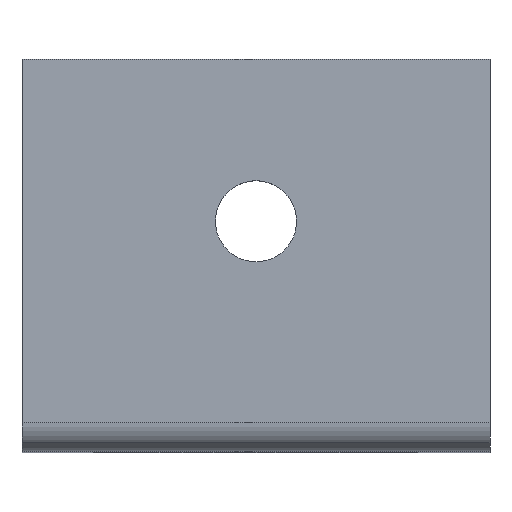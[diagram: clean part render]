
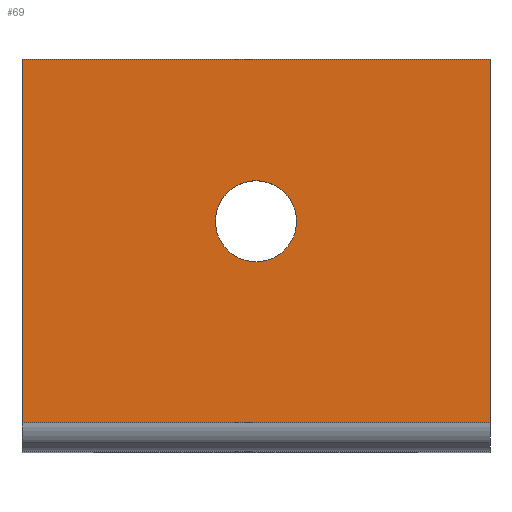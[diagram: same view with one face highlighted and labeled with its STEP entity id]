
A CAD part, top view. The second image highlights one B-rep face of the part: STEP entity #69.
In plain terms, the highlighted planar face has unit normal (0, 0, 1).
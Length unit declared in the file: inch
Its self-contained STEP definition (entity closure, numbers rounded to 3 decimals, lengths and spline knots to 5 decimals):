
#69=ADVANCED_FACE('',(#149,#150),#151,.T.);
#149=FACE_OUTER_BOUND('',#246,.T.);
#150=FACE_BOUND('',#247,.T.);
#151=PLANE('',#248);
#246=EDGE_LOOP('',(#436,#437,#438,#439));
#247=EDGE_LOOP('',(#440,#441,#442,#443));
#248=AXIS2_PLACEMENT_3D('',#444,#445,#446);
#436=ORIENTED_EDGE('',*,*,#625,.F.);
#437=ORIENTED_EDGE('',*,*,#626,.T.);
#438=ORIENTED_EDGE('',*,*,#627,.F.);
#439=ORIENTED_EDGE('',*,*,#601,.T.);
#440=ORIENTED_EDGE('',*,*,#628,.T.);
#441=ORIENTED_EDGE('',*,*,#629,.T.);
#442=ORIENTED_EDGE('',*,*,#630,.T.);
#443=ORIENTED_EDGE('',*,*,#631,.T.);
#444=CARTESIAN_POINT('',(0.,0.85633,2.68662));
#445=DIRECTION('',(0.0,0.0,1.0));
#446=DIRECTION('',(0.0,-1.0,0.0));
#601=EDGE_CURVE('',#717,#715,#718,.T.);
#625=EDGE_CURVE('',#756,#715,#757,.T.);
#626=EDGE_CURVE('',#756,#758,#759,.T.);
#627=EDGE_CURVE('',#717,#758,#760,.T.);
#628=EDGE_CURVE('',#761,#762,#763,.T.);
#629=EDGE_CURVE('',#762,#764,#765,.T.);
#630=EDGE_CURVE('',#764,#766,#767,.T.);
#631=EDGE_CURVE('',#766,#761,#768,.T.);
#715=VERTEX_POINT('',#873);
#717=VERTEX_POINT('',#875);
#718=LINE('',#876,#877);
#756=VERTEX_POINT('',#940);
#757=LINE('',#941,#942);
#758=VERTEX_POINT('',#943);
#759=LINE('',#944,#945);
#760=LINE('',#946,#947);
#761=VERTEX_POINT('',#948);
#762=VERTEX_POINT('',#949);
#763=B_SPLINE_CURVE_WITH_KNOTS('',3,(#950,#951,#952,#953),.UNSPECIFIED.,.F.,.F.,(4,4),(-1.0,-0.0),.UNSPECIFIED.);
#764=VERTEX_POINT('',#954);
#765=B_SPLINE_CURVE_WITH_KNOTS('',3,(#955,#956,#957,#958),.UNSPECIFIED.,.F.,.F.,(4,4),(-1.0,-0.0),.UNSPECIFIED.);
#766=VERTEX_POINT('',#959);
#767=B_SPLINE_CURVE_WITH_KNOTS('',3,(#960,#961,#962,#963),.UNSPECIFIED.,.F.,.F.,(4,4),(-1.0,-0.0),.UNSPECIFIED.);
#768=B_SPLINE_CURVE_WITH_KNOTS('',3,(#964,#965,#966,#967),.UNSPECIFIED.,.F.,.F.,(4,4),(-1.0,-0.0),.UNSPECIFIED.);
#873=CARTESIAN_POINT('',(0.,0.27569,2.68662));
#875=CARTESIAN_POINT('',(0.,1.53698,2.68662));
#876=CARTESIAN_POINT('',(0.,1.53698,2.68662));
#877=VECTOR('',#1094,1.0);
#940=CARTESIAN_POINT('',(1.625,0.27569,2.68662));
#941=CARTESIAN_POINT('',(0.,0.27569,2.68662));
#942=VECTOR('',#1117,1.0);
#943=CARTESIAN_POINT('',(1.625,1.53698,2.68662));
#944=CARTESIAN_POINT('',(1.625,1.53698,2.68662));
#945=VECTOR('',#1118,1.0);
#946=CARTESIAN_POINT('',(0.,1.53698,2.68662));
#947=VECTOR('',#1119,1.0);
#948=CARTESIAN_POINT('',(0.67187,0.97467,2.68662));
#949=CARTESIAN_POINT('',(0.8125,1.11529,2.68662));
#950=CARTESIAN_POINT('',(0.67187,0.97467,2.68662));
#951=CARTESIAN_POINT('',(0.67187,1.05233,2.68662));
#952=CARTESIAN_POINT('',(0.73484,1.11529,2.68662));
#953=CARTESIAN_POINT('',(0.8125,1.11529,2.68662));
#954=CARTESIAN_POINT('',(0.95312,0.97467,2.68662));
#955=CARTESIAN_POINT('',(0.8125,1.11529,2.68662));
#956=CARTESIAN_POINT('',(0.89016,1.11529,2.68662));
#957=CARTESIAN_POINT('',(0.95312,1.05233,2.68662));
#958=CARTESIAN_POINT('',(0.95312,0.97467,2.68662));
#959=CARTESIAN_POINT('',(0.8125,0.83404,2.68662));
#960=CARTESIAN_POINT('',(0.95312,0.97467,2.68662));
#961=CARTESIAN_POINT('',(0.95312,0.89701,2.68662));
#962=CARTESIAN_POINT('',(0.89016,0.83404,2.68662));
#963=CARTESIAN_POINT('',(0.8125,0.83404,2.68662));
#964=CARTESIAN_POINT('',(0.8125,0.83404,2.68662));
#965=CARTESIAN_POINT('',(0.73484,0.83404,2.68662));
#966=CARTESIAN_POINT('',(0.67187,0.89701,2.68662));
#967=CARTESIAN_POINT('',(0.67187,0.97467,2.68662));
#1094=DIRECTION('',(0.0,-1.0,0.0));
#1117=DIRECTION('',(-1.0,-0.0,-0.0));
#1118=DIRECTION('',(0.0,1.0,0.0));
#1119=DIRECTION('',(1.0,0.0,0.0));
